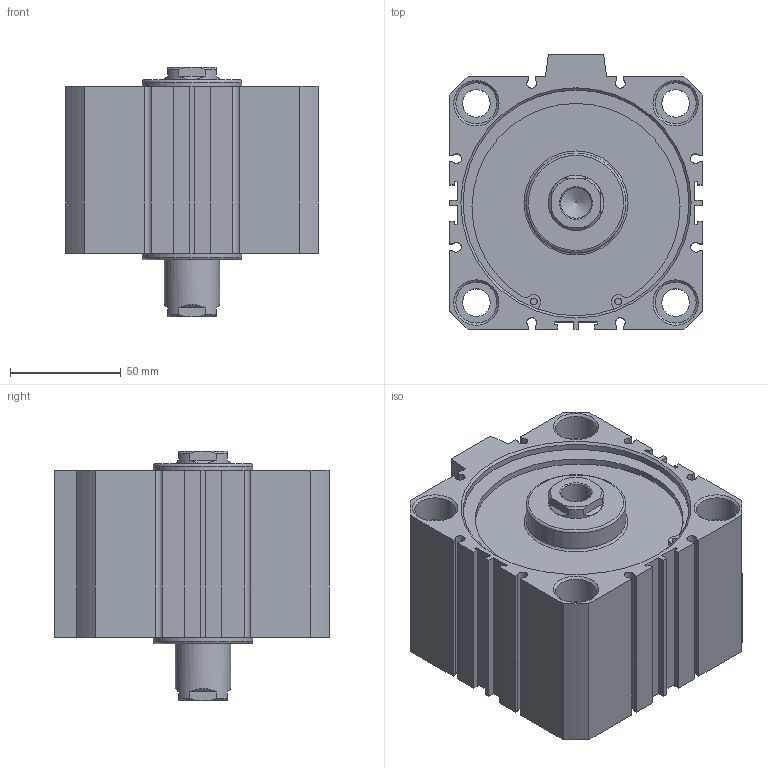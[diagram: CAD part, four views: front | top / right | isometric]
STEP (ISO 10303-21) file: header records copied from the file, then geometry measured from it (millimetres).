
FILE_DESCRIPTION((''),'2;1');
FILE_NAME('I:\3D電子目錄\氣缸\JDD\JDD-S\JDD100-S\JDD100x20-S.stp','2007-02-09T09:16:42',('662F206'),(''),'Autodesk Inventor 10','Autodesk Inventor 10','');
FILE_SCHEMA(('AUTOMOTIVE_DESIGN { 1 0 10303 214 1 1 1 1 }'));
Length unit declared in the file: millimetre
Products named in the file (3): JDD100-S; R 形環 100
Assembly tree (3 placements, depth 2):
  JDD100-S
    JDD100-S
    R 形環 100  x2
Bounding box: 114 x 124 x 112.7 mm (x, y, z)
Volume: 829532.4 mm3; surface area: 109089.4 mm2
Topology: 3 solids, 3 shells, 200 faces, 502 edges, 330 vertices
Faces by surface type: plane 116, cylinder 52, cone 24, bspline 6, torus 2
Full cylindrical faces by diameter (mm): 3.1 x4, 3.5 x2, 12.5 x4, 18.5 x8, 25 x2, 45 x2, 102 x4, 106 x2
Entity records: 5511 total; most frequent: CARTESIAN_POINT 1094, DIRECTION 908, ORIENTED_EDGE 824, EDGE_CURVE 412, AXIS2_PLACEMENT_3D 324, VERTEX_POINT 300, EDGE_LOOP 272, VECTOR 260
